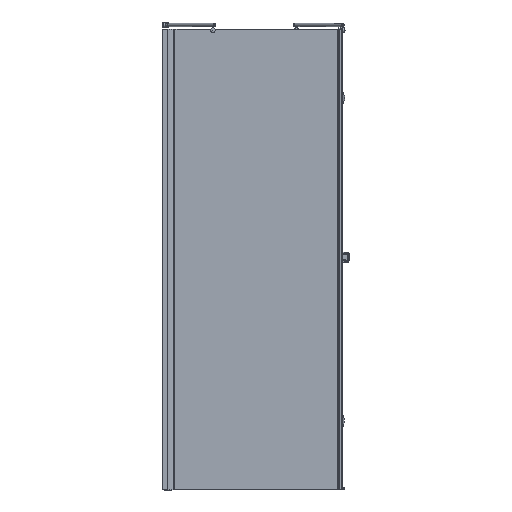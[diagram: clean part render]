
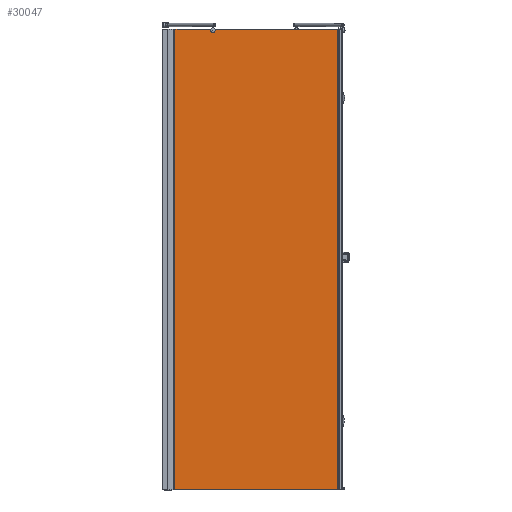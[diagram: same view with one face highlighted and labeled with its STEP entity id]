
A CAD part, front view. The second image highlights one B-rep face of the part: STEP entity #30047.
In plain terms, the highlighted planar face has unit normal (0, -1, 0).
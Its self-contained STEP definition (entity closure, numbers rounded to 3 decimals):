
#1979=LINE($,#64265,#4495);
#2040=LINE($,#64920,#4556);
#2041=LINE($,#64922,#4557);
#2042=LINE($,#64924,#4558);
#2043=LINE($,#64926,#4559);
#2044=LINE($,#64928,#4560);
#2045=LINE($,#64930,#4561);
#2046=LINE($,#64934,#4562);
#2047=LINE($,#64935,#4563);
#4495=VECTOR($,#38275,531.666);
#4556=VECTOR($,#38508,160.474);
#4557=VECTOR($,#38509,2000.);
#4558=VECTOR($,#38510,43.);
#4559=VECTOR($,#38511,1.);
#4560=VECTOR($,#38512,752.419);
#4561=VECTOR($,#38513,1.);
#4562=VECTOR($,#38516,1.419);
#4563=VECTOR($,#38517,1998.);
#7602=FACE_OUTER_BOUND($,#9442,.T.);
#9442=EDGE_LOOP($,(#23215,#23216,#23217,#23218,#23219,#23220,#23221,#23222,
#23223,#23224,#23225));
#10933=CIRCLE($,#32461,10.);
#10942=CIRCLE($,#32483,2.);
#13020=VERTEX_POINT($,#64262);
#13021=VERTEX_POINT($,#64264);
#13120=VERTEX_POINT($,#64717);
#13137=VERTEX_POINT($,#64919);
#13138=VERTEX_POINT($,#64921);
#13139=VERTEX_POINT($,#64923);
#13140=VERTEX_POINT($,#64925);
#13141=VERTEX_POINT($,#64927);
#13142=VERTEX_POINT($,#64929);
#13143=VERTEX_POINT($,#64931);
#13144=VERTEX_POINT($,#64933);
#16536=EDGE_CURVE($,#13020,#13021,#1979,.T.);
#16654=EDGE_CURVE($,#13120,#13020,#10933,.T.);
#16677=EDGE_CURVE($,#13137,#13120,#2040,.T.);
#16678=EDGE_CURVE($,#13138,#13137,#2041,.T.);
#16679=EDGE_CURVE($,#13139,#13138,#2042,.T.);
#16680=EDGE_CURVE($,#13139,#13140,#2043,.T.);
#16681=EDGE_CURVE($,#13141,#13140,#2044,.T.);
#16682=EDGE_CURVE($,#13142,#13141,#2045,.T.);
#16683=EDGE_CURVE($,#13143,#13142,#10942,.T.);
#16684=EDGE_CURVE($,#13144,#13143,#2046,.T.);
#16685=EDGE_CURVE($,#13021,#13144,#2047,.T.);
#23215=ORIENTED_EDGE($,*,*,#16654,.F.);
#23216=ORIENTED_EDGE($,*,*,#16677,.F.);
#23217=ORIENTED_EDGE($,*,*,#16678,.F.);
#23218=ORIENTED_EDGE($,*,*,#16679,.F.);
#23219=ORIENTED_EDGE($,*,*,#16680,.T.);
#23220=ORIENTED_EDGE($,*,*,#16681,.F.);
#23221=ORIENTED_EDGE($,*,*,#16682,.F.);
#23222=ORIENTED_EDGE($,*,*,#16683,.F.);
#23223=ORIENTED_EDGE($,*,*,#16684,.F.);
#23224=ORIENTED_EDGE($,*,*,#16685,.F.);
#23225=ORIENTED_EDGE($,*,*,#16536,.F.);
#26967=PLANE($,#32482);
#30047=ADVANCED_FACE($,(#7602),#26967,.F.);
#32461=AXIS2_PLACEMENT_3D($,#64719,#38458,#38459);
#32482=AXIS2_PLACEMENT_3D($,#64918,#38506,#38507);
#32483=AXIS2_PLACEMENT_3D($,#64932,#38514,#38515);
#38275=DIRECTION($,(1.,0.,0.));
#38458=DIRECTION('center_axis',(0.,-1.,0.));
#38459=DIRECTION('ref_axis',(-0.597,0.,0.802));
#38506=DIRECTION('center_axis',(0.,1.,0.));
#38507=DIRECTION('ref_axis',(1.,0.,0.));
#38508=DIRECTION($,(1.,0.,0.));
#38509=DIRECTION($,(0.,0.,1.));
#38510=DIRECTION($,(1.,0.,0.));
#38511=DIRECTION($,(0.,0.,-1.));
#38512=DIRECTION($,(-1.,0.,0.));
#38513=DIRECTION($,(0.,0.,-1.));
#38514=DIRECTION('center_axis',(0.,-1.,0.));
#38515=DIRECTION('ref_axis',(-0.707,0.,
0.707));
#38516=DIRECTION($,(1.,0.,0.));
#38517=DIRECTION($,(0.,0.,-1.));
#64262=CARTESIAN_POINT('',(1995.629,57.989,1565.187));
#64264=CARTESIAN_POINT('',(2527.294,57.989,1565.187));
#64265=CARTESIAN_POINT($,(1774.294,57.989,1565.187));
#64717=CARTESIAN_POINT('',(1977.768,57.989,1565.187));
#64719=CARTESIAN_POINT('Origin',(1986.698,57.989,1560.687));
#64918=CARTESIAN_POINT('Origin',(1774.294,57.989,1565.187));
#64919=CARTESIAN_POINT('',(1817.294,57.989,1565.187));
#64920=CARTESIAN_POINT($,(1774.294,57.989,1565.187));
#64921=CARTESIAN_POINT('',(1817.294,57.989,-434.813));
#64922=CARTESIAN_POINT($,(1817.294,57.989,1565.187));
#64923=CARTESIAN_POINT('',(1774.294,57.989,-434.813));
#64924=CARTESIAN_POINT($,(1782.289,57.989,-434.813));
#64925=CARTESIAN_POINT('',(1774.294,57.989,-435.813));
#64926=CARTESIAN_POINT($,(1774.294,57.989,1565.187));
#64927=CARTESIAN_POINT('',(2526.714,57.989,-435.813));
#64928=CARTESIAN_POINT($,(2526.794,57.989,-435.813));
#64929=CARTESIAN_POINT('',(2526.714,57.989,-434.813));
#64930=CARTESIAN_POINT($,(2526.714,57.989,564.687));
#64931=CARTESIAN_POINT('',(2528.714,57.989,-432.813));
#64932=CARTESIAN_POINT('Origin',(2528.714,57.989,-434.813));
#64933=CARTESIAN_POINT('',(2527.294,57.989,-432.813));
#64934=CARTESIAN_POINT($,(2152.78,57.989,-432.813));
#64935=CARTESIAN_POINT($,(2527.294,57.989,1565.187));
